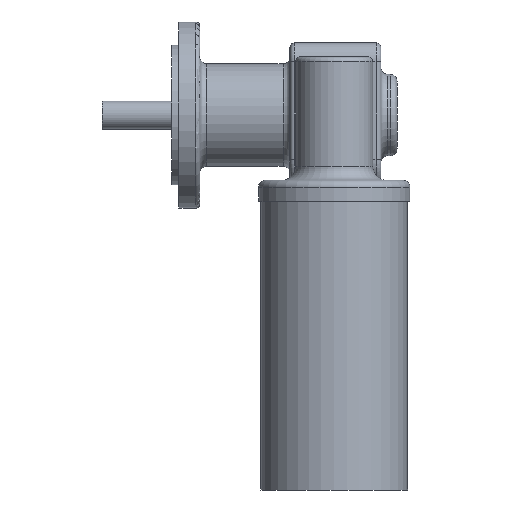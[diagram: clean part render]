
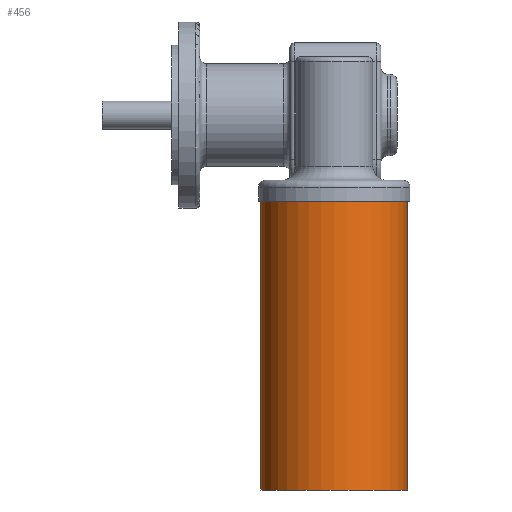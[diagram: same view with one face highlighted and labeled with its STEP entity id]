
A CAD part, front view. The second image highlights one B-rep face of the part: STEP entity #456.
In plain terms, the highlighted cylindrical face has radius 31.5 mm (diameter 63 mm), a partial arc.
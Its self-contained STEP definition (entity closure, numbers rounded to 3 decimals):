
#66 = EDGE_CURVE ( 'NONE', #2845, #896, #3996, .T. ) ;
#122 = EDGE_CURVE ( 'NONE', #896, #1932, #1156, .T. ) ;
#130 = CYLINDRICAL_SURFACE ( 'NONE', #2190, 31.5 ) ;
#207 = DIRECTION ( 'NONE',  ( 1., 0., 0. ) ) ;
#229 = ORIENTED_EDGE ( 'NONE', *, *, #663, .F. ) ;
#245 = DIRECTION ( 'NONE',  ( 0., 0., 1. ) ) ;
#259 = VECTOR ( 'NONE', #1174, 1000. ) ;
#276 = DIRECTION ( 'NONE',  ( 1., 0., 0. ) ) ;
#315 = ORIENTED_EDGE ( 'NONE', *, *, #2526, .F. ) ;
#343 = FACE_OUTER_BOUND ( 'NONE', #3002, .T. ) ;
#406 = ORIENTED_EDGE ( 'NONE', *, *, #66, .T. ) ;
#456 = ADVANCED_FACE ( 'NONE', ( #343 ), #130, .T. ) ;
#663 = EDGE_CURVE ( 'NONE', #2845, #3197, #2366, .T. ) ;
#896 = VERTEX_POINT ( 'NONE', #1492 ) ;
#1004 = CIRCLE ( 'NONE', #4033, 31.5 ) ;
#1156 = LINE ( 'NONE', #1476, #259 ) ;
#1174 = DIRECTION ( 'NONE',  ( 0., 0., 1. ) ) ;
#1476 = CARTESIAN_POINT ( 'NONE',  ( 31.5, 0., -124. ) ) ;
#1485 = VECTOR ( 'NONE', #2921, 1000. ) ;
#1492 = CARTESIAN_POINT ( 'NONE',  ( 31.5, 0., -124. ) ) ;
#1932 = VERTEX_POINT ( 'NONE', #3788 ) ;
#1958 = CARTESIAN_POINT ( 'NONE',  ( 0., 0., 0. ) ) ;
#1962 = CARTESIAN_POINT ( 'NONE',  ( -31.5, 0., -124. ) ) ;
#2139 = CARTESIAN_POINT ( 'NONE',  ( -31.5, 0., 0. ) ) ;
#2190 = AXIS2_PLACEMENT_3D ( 'NONE', #2543, #245, #276 ) ;
#2366 = LINE ( 'NONE', #4230, #1485 ) ;
#2521 = DIRECTION ( 'NONE',  ( 0., 0., 1. ) ) ;
#2526 = EDGE_CURVE ( 'NONE', #3197, #1932, #1004, .T. ) ;
#2543 = CARTESIAN_POINT ( 'NONE',  ( 0., 0., -124. ) ) ;
#2843 = CARTESIAN_POINT ( 'NONE',  ( 0., 0., -124. ) ) ;
#2845 = VERTEX_POINT ( 'NONE', #1962 ) ;
#2905 = ORIENTED_EDGE ( 'NONE', *, *, #122, .T. ) ;
#2911 = DIRECTION ( 'NONE',  ( 1., 0., 0. ) ) ;
#2921 = DIRECTION ( 'NONE',  ( 0., 0., 1. ) ) ;
#3002 = EDGE_LOOP ( 'NONE', ( #229, #406, #2905, #315 ) ) ;
#3197 = VERTEX_POINT ( 'NONE', #2139 ) ;
#3246 = DIRECTION ( 'NONE',  ( 0., 0., 1. ) ) ;
#3788 = CARTESIAN_POINT ( 'NONE',  ( 31.5, 0., 0. ) ) ;
#3996 = CIRCLE ( 'NONE', #4131, 31.5 ) ;
#4033 = AXIS2_PLACEMENT_3D ( 'NONE', #1958, #3246, #2911 ) ;
#4131 = AXIS2_PLACEMENT_3D ( 'NONE', #2843, #2521, #207 ) ;
#4230 = CARTESIAN_POINT ( 'NONE',  ( -31.5, 0., -124. ) ) ;
